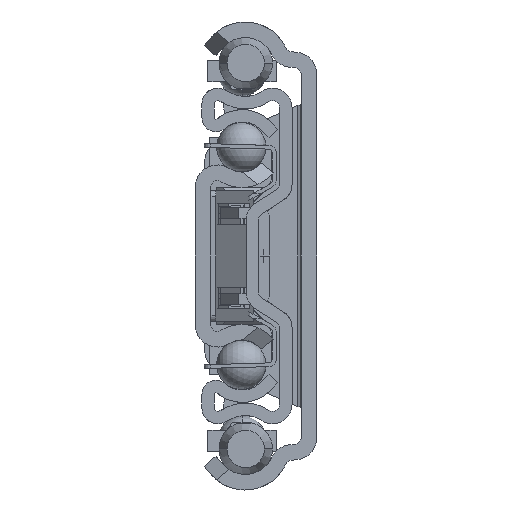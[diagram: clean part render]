
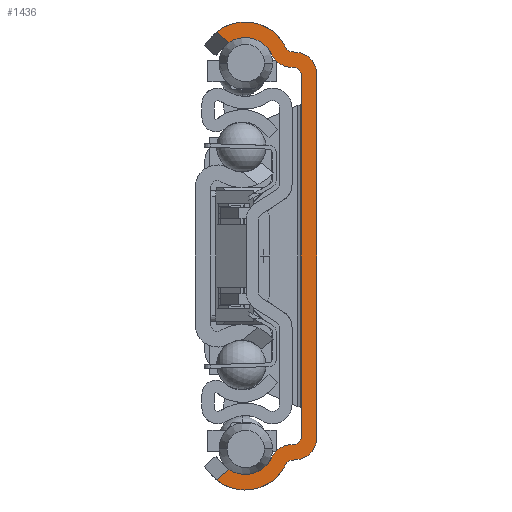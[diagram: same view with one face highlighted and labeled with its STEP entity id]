
A CAD part, left-side view. The second image highlights one B-rep face of the part: STEP entity #1436.
In plain terms, the highlighted planar face has unit normal (-1, 0, 0).
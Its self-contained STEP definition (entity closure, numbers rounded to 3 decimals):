
#1=DIRECTION('',(0.,-0.769,-0.639));
#2=VECTOR('',#1,2.575);
#3=CARTESIAN_POINT('',(0.,16.079,36.021));
#4=LINE('',#3,#2);
#5=CARTESIAN_POINT('',(0.,11.5,30.4));
#6=DIRECTION('',(1.,0.,0.));
#7=DIRECTION('',(0.,0.632,0.775));
#8=AXIS2_PLACEMENT_3D('',#5,#6,#7);
#10=DIRECTION('',(0.,-0.996,-0.087));
#11=VECTOR('',#10,0.904);
#12=CARTESIAN_POINT('',(0.,4.095,32.858));
#13=LINE('',#12,#11);
#14=CARTESIAN_POINT('',(0.,3.5,29.293));
#15=DIRECTION('',(-1.,0.,0.));
#16=DIRECTION('',(0.,-1.,0.));
#17=AXIS2_PLACEMENT_3D('',#14,#15,#16);
#19=DIRECTION('',(0.,0.,-1.));
#20=VECTOR('',#19,58.586);
#21=CARTESIAN_POINT('',(0.,0.,29.293));
#22=LINE('',#21,#20);
#23=CARTESIAN_POINT('',(0.,3.5,-29.293));
#24=DIRECTION('',(-1.,0.,0.));
#25=DIRECTION('',(0.,-0.087,-0.996));
#26=AXIS2_PLACEMENT_3D('',#23,#24,#25);
#28=DIRECTION('',(0.,0.996,-0.087));
#29=VECTOR('',#28,0.904);
#30=CARTESIAN_POINT('',(0.,3.195,-32.78));
#31=LINE('',#30,#29);
#32=CARTESIAN_POINT('',(0.,11.5,-30.4));
#33=DIRECTION('',(1.,0.,0.));
#34=DIRECTION('',(0.,-0.908,-0.419));
#35=AXIS2_PLACEMENT_3D('',#32,#33,#34);
#37=DIRECTION('',(0.,0.769,-0.639));
#38=VECTOR('',#37,2.575);
#39=CARTESIAN_POINT('',(0.,14.098,-34.377));
#40=LINE('',#39,#38);
#41=CARTESIAN_POINT('',(0.,11.5,-30.4));
#42=DIRECTION('',(-1.,0.,0.));
#43=DIRECTION('',(0.,0.547,-0.837));
#44=AXIS2_PLACEMENT_3D('',#41,#42,#43);
#46=CARTESIAN_POINT('',(0.,4.008,-33.854));
#47=DIRECTION('',(-1.,0.,0.));
#48=DIRECTION('',(0.,0.087,0.996));
#49=AXIS2_PLACEMENT_3D('',#46,#47,#48);
#51=DIRECTION('',(0.,-0.996,0.087));
#52=VECTOR('',#51,0.904);
#53=CARTESIAN_POINT('',(0.,4.313,-30.368));
#54=LINE('',#53,#52);
#55=DIRECTION('',(0.,0.,1.));
#56=VECTOR('',#55,58.586);
#57=CARTESIAN_POINT('',(0.,2.5,-29.293));
#58=LINE('',#57,#56);
#59=DIRECTION('',(0.,0.996,0.087));
#60=VECTOR('',#59,0.904);
#61=CARTESIAN_POINT('',(0.,3.413,30.289));
#62=LINE('',#61,#60);
#63=CARTESIAN_POINT('',(0.,4.008,33.854));
#64=DIRECTION('',(-1.,0.,0.));
#65=DIRECTION('',(0.,0.908,-0.419));
#66=AXIS2_PLACEMENT_3D('',#63,#64,#65);
#68=CARTESIAN_POINT('',(0.,11.5,30.4));
#69=DIRECTION('',(-1.,0.,0.));
#70=DIRECTION('',(0.,-0.908,0.419));
#71=AXIS2_PLACEMENT_3D('',#68,#69,#70);
#73=CARTESIAN_POINT('',(0.,14.098,34.377));
#122=CARTESIAN_POINT('',(0.,3.5,29.293));
#123=DIRECTION('',(1.,0.,0.));
#124=DIRECTION('',(0.,-0.087,0.996));
#125=AXIS2_PLACEMENT_3D('',#122,#123,#124);
#627=CARTESIAN_POINT('',(0.,16.079,36.021));
#694=CARTESIAN_POINT('',(0.,16.079,-36.021));
#749=CARTESIAN_POINT('',(0.,14.098,-34.377));
#1039=CARTESIAN_POINT('',(0.,3.5,-29.293));
#1040=DIRECTION('',(1.,0.,0.));
#1041=DIRECTION('',(0.,-1.,0.));
#1042=AXIS2_PLACEMENT_3D('',#1039,#1040,#1041);
#1049=CARTESIAN_POINT('',(0.,4.008,-33.854));
#1050=DIRECTION('',(1.,0.,0.));
#1051=DIRECTION('',(0.,0.908,0.419));
#1052=AXIS2_PLACEMENT_3D('',#1049,#1050,#1051);
#1067=CARTESIAN_POINT('',(0.,4.008,33.854));
#1068=DIRECTION('',(1.,0.,0.));
#1069=DIRECTION('',(0.,0.087,-0.996));
#1070=AXIS2_PLACEMENT_3D('',#1067,#1068,#1069);
#1085=CARTESIAN_POINT('',(0.,2.5,-29.293));
#1086=CARTESIAN_POINT('',(0.,2.5,29.293));
#1087=VERTEX_POINT('',#1085);
#1088=VERTEX_POINT('',#1086);
#1089=CARTESIAN_POINT('',(0.,3.413,-30.289));
#1090=VERTEX_POINT('',#1089);
#1091=CARTESIAN_POINT('',(0.,3.413,30.289));
#1092=VERTEX_POINT('',#1091);
#1093=CARTESIAN_POINT('',(0.,4.095,32.858));
#1094=CARTESIAN_POINT('',(0.,4.916,33.436));
#1095=VERTEX_POINT('',#1093);
#1096=VERTEX_POINT('',#1094);
#1097=CARTESIAN_POINT('',(0.,4.916,-33.436));
#1098=CARTESIAN_POINT('',(0.,4.095,-32.858));
#1099=VERTEX_POINT('',#1097);
#1100=VERTEX_POINT('',#1098);
#1101=CARTESIAN_POINT('',(0.,4.313,-30.368));
#1102=CARTESIAN_POINT('',(0.,7.186,-32.389));
#1103=VERTEX_POINT('',#1101);
#1104=VERTEX_POINT('',#1102);
#1105=CARTESIAN_POINT('',(0.,7.186,32.389));
#1106=CARTESIAN_POINT('',(0.,4.313,30.368));
#1107=VERTEX_POINT('',#1105);
#1108=VERTEX_POINT('',#1106);
#1109=CARTESIAN_POINT('',(0.,0.,29.293));
#1110=CARTESIAN_POINT('',(0.,3.195,32.78));
#1111=VERTEX_POINT('',#1109);
#1112=VERTEX_POINT('',#1110);
#1113=CARTESIAN_POINT('',(0.,3.195,-32.78));
#1114=CARTESIAN_POINT('',(0.,0.,-29.293));
#1115=VERTEX_POINT('',#1113);
#1116=VERTEX_POINT('',#1114);
#1363=VERTEX_POINT('',#73);
#1371=VERTEX_POINT('',#627);
#1372=VERTEX_POINT('',#694);
#1380=VERTEX_POINT('',#749);
#1389=CARTESIAN_POINT('',(0.,0.,0.));
#1390=DIRECTION('',(1.,0.,0.));
#1391=DIRECTION('',(0.,-1.,0.));
#1392=AXIS2_PLACEMENT_3D('',#1389,#1390,#1391);
#1393=PLANE('',#1392);
#1395=ORIENTED_EDGE('',*,*,#1394,.F.);
#1397=ORIENTED_EDGE('',*,*,#1396,.T.);
#1399=ORIENTED_EDGE('',*,*,#1398,.F.);
#1401=ORIENTED_EDGE('',*,*,#1400,.T.);
#1403=ORIENTED_EDGE('',*,*,#1402,.F.);
#1405=ORIENTED_EDGE('',*,*,#1404,.T.);
#1407=ORIENTED_EDGE('',*,*,#1406,.F.);
#1409=ORIENTED_EDGE('',*,*,#1408,.T.);
#1411=ORIENTED_EDGE('',*,*,#1410,.F.);
#1413=ORIENTED_EDGE('',*,*,#1412,.T.);
#1415=ORIENTED_EDGE('',*,*,#1414,.F.);
#1417=ORIENTED_EDGE('',*,*,#1416,.T.);
#1419=ORIENTED_EDGE('',*,*,#1418,.F.);
#1421=ORIENTED_EDGE('',*,*,#1420,.T.);
#1423=ORIENTED_EDGE('',*,*,#1422,.F.);
#1425=ORIENTED_EDGE('',*,*,#1424,.T.);
#1427=ORIENTED_EDGE('',*,*,#1426,.F.);
#1429=ORIENTED_EDGE('',*,*,#1428,.T.);
#1431=ORIENTED_EDGE('',*,*,#1430,.F.);
#1433=ORIENTED_EDGE('',*,*,#1432,.T.);
#1434=EDGE_LOOP('',(#1395,#1397,#1399,#1401,#1403,#1405,#1407,#1409,#1411,#1413,
#1415,#1417,#1419,#1421,#1423,#1425,#1427,#1429,#1431,#1433));
#1435=FACE_OUTER_BOUND('',#1434,.F.);
#9=CIRCLE('',#8,7.25);
#18=CIRCLE('',#17,3.5);
#27=CIRCLE('',#26,3.5);
#36=CIRCLE('',#35,7.25);
#45=CIRCLE('',#44,4.75);
#50=CIRCLE('',#49,3.5);
#67=CIRCLE('',#66,3.5);
#72=CIRCLE('',#71,4.75);
#126=CIRCLE('',#125,1.);
#1043=CIRCLE('',#1042,1.);
#1053=CIRCLE('',#1052,1.);
#1071=CIRCLE('',#1070,1.);
#1394=EDGE_CURVE('',#1371,#1363,#4,.T.);
#1396=EDGE_CURVE('',#1371,#1096,#9,.T.);
#1398=EDGE_CURVE('',#1095,#1096,#1071,.T.);
#1400=EDGE_CURVE('',#1095,#1112,#13,.T.);
#1402=EDGE_CURVE('',#1111,#1112,#18,.T.);
#1404=EDGE_CURVE('',#1111,#1116,#22,.T.);
#1406=EDGE_CURVE('',#1115,#1116,#27,.T.);
#1408=EDGE_CURVE('',#1115,#1100,#31,.T.);
#1410=EDGE_CURVE('',#1099,#1100,#1053,.T.);
#1412=EDGE_CURVE('',#1099,#1372,#36,.T.);
#1414=EDGE_CURVE('',#1380,#1372,#40,.T.);
#1416=EDGE_CURVE('',#1380,#1104,#45,.T.);
#1418=EDGE_CURVE('',#1103,#1104,#50,.T.);
#1420=EDGE_CURVE('',#1103,#1090,#54,.T.);
#1422=EDGE_CURVE('',#1087,#1090,#1043,.T.);
#1424=EDGE_CURVE('',#1087,#1088,#58,.T.);
#1426=EDGE_CURVE('',#1092,#1088,#126,.T.);
#1428=EDGE_CURVE('',#1092,#1108,#62,.T.);
#1430=EDGE_CURVE('',#1107,#1108,#67,.T.);
#1432=EDGE_CURVE('',#1107,#1363,#72,.T.);
#1436=ADVANCED_FACE('',(#1435),#1393,.F.);
